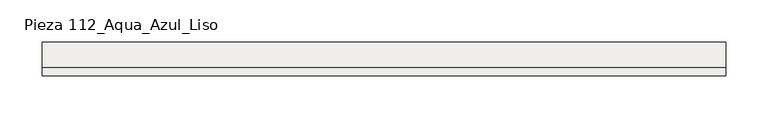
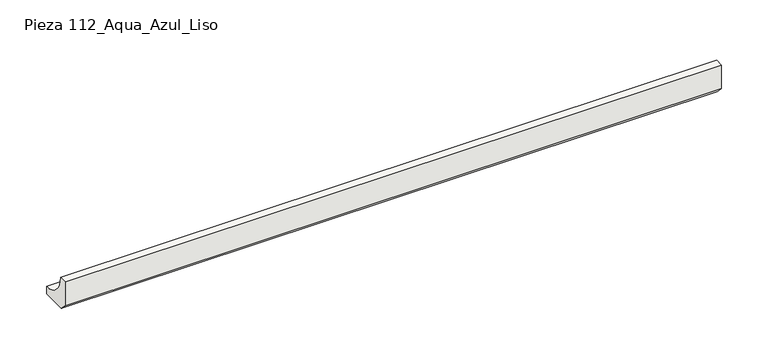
"""IFC4 building model written with IfcOpenShell, lengths in millimetres: slab geometry, ROSA GRES_112 : Pieza 112_Aqua_Azul_Liso."""

from ifc_helpers import new_model, si_unit, point, frame, frame_2d, origin, place, context, project, spatial, polyline, circle_curve, trimmed, segment, composite_curve, outline, extrude, source, transform, mapped, element, save


def pieza_112_aqua_azul_liso_dcbc3e04(model_context):
    return source(origin(), model_context, "Body", "SweptSolid", [
        extrude(outline(composite_curve([segment(polyline([(0.0, 8.7114978), (0.0, 40.0), (9.9734114, 40.0)]), True, "CONTINUOUS"), segment(trimmed(circle_curve(frame_2d((39.9955547, 39.9955547)), 30.0221435), [point((9.9734114, 40.0))], [point((40.0, 9.9734114))], True, "CARTESIAN"), True, "CONTINUOUS"), segment(polyline([(40.0, 9.9734114), (40.0, 0.0), (8.7114978, 0.0), (0.0, 8.7114978)]), True, "CONTINUOUS")], self_intersect=False)), frame((0.0, 0.0, 0.0), z_axis=(1.0, 0.0, 0.0), x_axis=(0.0, 1.0, 0.0)), (0.0, 0.0, 1.0), 813.3865321),
    ])


if __name__ == "__main__":
    model = new_model("IFC4")
    model_context = context("Model", 3, world=origin())
    ifc_project = project(units=[si_unit("LENGTHUNIT", "METRE", prefix="MILLI")], contexts=[model_context])
    site = spatial("IfcSite", under=ifc_project)
    building = spatial("IfcBuilding", under=site)
    placement = place(None, origin())
    pieza_112_aqua_azul_liso_shape = pieza_112_aqua_azul_liso_dcbc3e04(model_context)
    element("IfcSlab", 1, ObjectType="ROSA GRES_112 : Pieza 112_Aqua_Azul_Liso", at=placement, inside=building, context=model_context, shape_type="MappedRepresentation", body=[
        mapped(pieza_112_aqua_azul_liso_shape, transform((0.0, 0.0, 0.0), x_axis=(1.0, 0.0, 0.0), y_axis=(0.0, 1.0, 0.0), z_axis=(0.0, 0.0, 1.0))),
    ])
    save(model, "model.ifc")
